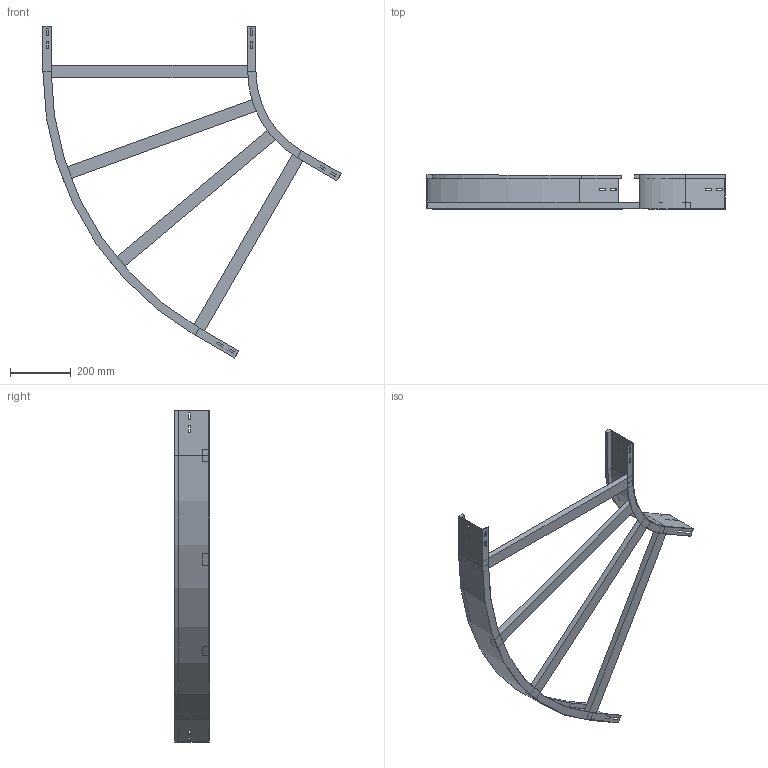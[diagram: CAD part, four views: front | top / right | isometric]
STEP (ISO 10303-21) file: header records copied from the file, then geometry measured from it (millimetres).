
FILE_DESCRIPTION (( 'STEP AP214' ), '1' );
FILE_NAME ('A2_13B3J700.step', '2025-02-21T15:19:40', ( '' ), ( '' ), 'SwSTEP 2.0', 'SolidWorks 2023', '' );
FILE_SCHEMA (( 'AUTOMOTIVE_DESIGN' ));
Length unit declared in the file: millimetre
Products named in the file (4): A2_LONGH.INTERNO 60°_H112.5_R300; A2_13B3J700; TRAVERSINO_700; A2_LONGH.ESTERNO 60°_H112.5_R300+700
Assembly tree (6 placements, depth 2):
  A2_13B3J700
    A2_LONGH.INTERNO 60°_H112.5_R300
    A2_LONGH.ESTERNO 60°_H112.5_R300+700
    TRAVERSINO_700  x4
Bounding box: 979.9 x 112.5 x 1091.03 mm (x, y, z)
Volume: 3166065.6 mm3; surface area: 952122 mm2
Topology: 6 solids, 6 shells, 140 faces, 352 edges, 224 vertices
Faces by surface type: plane 132, cylinder 8
Entity records: 3829 total; most frequent: CARTESIAN_POINT 647, ORIENTED_EDGE 632, DIRECTION 594, EDGE_CURVE 316, LINE 300, VECTOR 300, VERTEX_POINT 200, EDGE_LOOP 154
